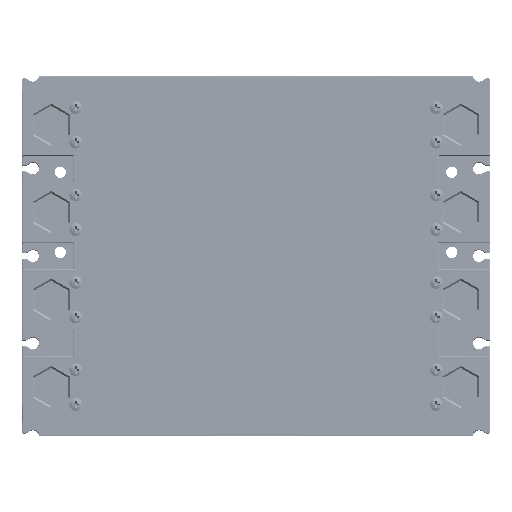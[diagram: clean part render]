
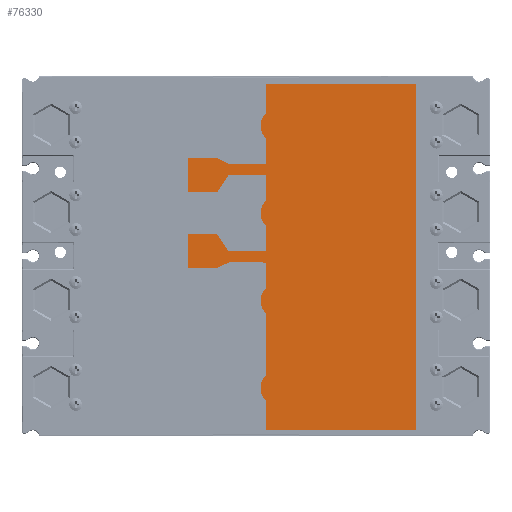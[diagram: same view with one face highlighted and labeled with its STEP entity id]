
A CAD part, front view. The second image highlights one B-rep face of the part: STEP entity #76330.
In plain terms, the highlighted planar face has unit normal (0, -1, 0) as drawn and (0, 0, -1) by its records, which use the part's own axes.
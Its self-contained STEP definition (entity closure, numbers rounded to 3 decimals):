
#75811=DIRECTION('',(0.,1.,0.));
#75812=VECTOR('',#75811,82.5);
#75813=CARTESIAN_POINT('',(119.,0.,0.));
#75814=LINE('',#75813,#75812);
#75815=DIRECTION('',(-1.,0.,0.));
#75816=VECTOR('',#75815,16.072);
#75817=CARTESIAN_POINT('',(119.,82.5,0.));
#75818=LINE('',#75817,#75816);
#75819=CARTESIAN_POINT('',(96.,76.,0.));
#75820=DIRECTION('',(0.,0.,1.));
#75821=DIRECTION('',(0.729,0.684,0.));
#75822=AXIS2_PLACEMENT_3D('',#75819,#75820,#75821);
#75824=DIRECTION('',(-1.,0.,0.));
#75825=VECTOR('',#75824,34.144);
#75826=CARTESIAN_POINT('',(89.072,82.5,0.));
#75827=LINE('',#75826,#75825);
#75828=CARTESIAN_POINT('',(48.,76.,0.));
#75829=DIRECTION('',(0.,0.,1.));
#75830=DIRECTION('',(0.729,0.684,0.));
#75831=AXIS2_PLACEMENT_3D('',#75828,#75829,#75830);
#75833=DIRECTION('',(-1.,0.,0.));
#75834=VECTOR('',#75833,13.972);
#75835=CARTESIAN_POINT('',(41.072,82.5,0.));
#75836=LINE('',#75835,#75834);
#75837=DIRECTION('',(0.,1.,0.));
#75838=VECTOR('',#75837,20.5);
#75839=CARTESIAN_POINT('',(27.1,82.5,0.));
#75840=LINE('',#75839,#75838);
#75841=DIRECTION('',(0.436,0.9,0.));
#75842=VECTOR('',#75841,7.223);
#75843=CARTESIAN_POINT('',(27.1,103.,0.));
#75844=LINE('',#75843,#75842);
#75845=DIRECTION('',(0.,1.,0.));
#75846=VECTOR('',#75845,16.);
#75847=CARTESIAN_POINT('',(30.25,109.5,0.));
#75848=LINE('',#75847,#75846);
#75849=DIRECTION('',(-1.,0.,0.));
#75850=VECTOR('',#75849,19.);
#75851=CARTESIAN_POINT('',(30.25,125.5,0.));
#75852=LINE('',#75851,#75850);
#75853=DIRECTION('',(0.,-1.,0.));
#75854=VECTOR('',#75853,16.);
#75855=CARTESIAN_POINT('',(11.25,125.5,0.));
#75856=LINE('',#75855,#75854);
#75857=DIRECTION('',(0.829,-0.559,0.));
#75858=VECTOR('',#75857,11.635);
#75859=CARTESIAN_POINT('',(11.25,109.5,0.));
#75860=LINE('',#75859,#75858);
#75861=DIRECTION('',(0.,-1.,0.));
#75862=VECTOR('',#75861,20.5);
#75863=CARTESIAN_POINT('',(20.9,103.,0.));
#75864=LINE('',#75863,#75862);
#75865=DIRECTION('',(-1.,0.,0.));
#75866=VECTOR('',#75865,13.972);
#75867=CARTESIAN_POINT('',(20.9,82.5,0.));
#75868=LINE('',#75867,#75866);
#75869=CARTESIAN_POINT('',(0.,76.,0.));
#75870=DIRECTION('',(0.,0.,1.));
#75871=DIRECTION('',(0.729,0.684,0.));
#75872=AXIS2_PLACEMENT_3D('',#75869,#75870,#75871);
#75874=DIRECTION('',(-1.,0.,0.));
#75875=VECTOR('',#75874,13.972);
#75876=CARTESIAN_POINT('',(-6.928,82.5,0.));
#75877=LINE('',#75876,#75875);
#75878=DIRECTION('',(0.,1.,0.));
#75879=VECTOR('',#75878,20.5);
#75880=CARTESIAN_POINT('',(-20.9,82.5,0.));
#75881=LINE('',#75880,#75879);
#75882=DIRECTION('',(0.829,0.559,0.));
#75883=VECTOR('',#75882,11.635);
#75884=CARTESIAN_POINT('',(-20.9,103.,0.));
#75885=LINE('',#75884,#75883);
#75886=DIRECTION('',(0.,1.,0.));
#75887=VECTOR('',#75886,16.);
#75888=CARTESIAN_POINT('',(-11.25,109.5,0.));
#75889=LINE('',#75888,#75887);
#75890=DIRECTION('',(-1.,0.,0.));
#75891=VECTOR('',#75890,19.);
#75892=CARTESIAN_POINT('',(-11.25,125.5,0.));
#75893=LINE('',#75892,#75891);
#75894=DIRECTION('',(0.,-1.,0.));
#75895=VECTOR('',#75894,16.);
#75896=CARTESIAN_POINT('',(-30.25,125.5,0.));
#75897=LINE('',#75896,#75895);
#75898=DIRECTION('',(0.436,-0.9,0.));
#75899=VECTOR('',#75898,7.223);
#75900=CARTESIAN_POINT('',(-30.25,109.5,0.));
#75901=LINE('',#75900,#75899);
#75902=DIRECTION('',(0.,-1.,0.));
#75903=VECTOR('',#75902,20.5);
#75904=CARTESIAN_POINT('',(-27.1,103.,0.));
#75905=LINE('',#75904,#75903);
#75906=DIRECTION('',(-1.,0.,0.));
#75907=VECTOR('',#75906,13.972);
#75908=CARTESIAN_POINT('',(-27.1,82.5,0.));
#75909=LINE('',#75908,#75907);
#75910=CARTESIAN_POINT('',(-48.,76.,0.));
#75911=DIRECTION('',(0.,0.,1.));
#75912=DIRECTION('',(0.729,0.684,0.));
#75913=AXIS2_PLACEMENT_3D('',#75910,#75911,#75912);
#75915=DIRECTION('',(-1.,0.,0.));
#75916=VECTOR('',#75915,16.072);
#75917=CARTESIAN_POINT('',(-54.928,82.5,0.));
#75918=LINE('',#75917,#75916);
#75919=DIRECTION('',(0.,-1.,0.));
#75920=VECTOR('',#75919,82.5);
#75921=CARTESIAN_POINT('',(-71.,82.5,0.));
#75922=LINE('',#75921,#75920);
#75923=DIRECTION('',(-1.,0.,0.));
#75924=VECTOR('',#75923,190.);
#75925=CARTESIAN_POINT('',(119.,0.,0.));
#75926=LINE('',#75925,#75924);
#76155=CARTESIAN_POINT('',(-20.9,103.,0.));
#76156=CARTESIAN_POINT('',(-11.25,109.5,0.));
#76157=VERTEX_POINT('',#76155);
#76158=VERTEX_POINT('',#76156);
#76159=CARTESIAN_POINT('',(-11.25,125.5,0.));
#76160=VERTEX_POINT('',#76159);
#76161=CARTESIAN_POINT('',(-30.25,125.5,0.));
#76162=VERTEX_POINT('',#76161);
#76163=CARTESIAN_POINT('',(-30.25,109.5,0.));
#76164=VERTEX_POINT('',#76163);
#76165=CARTESIAN_POINT('',(-27.1,103.,0.));
#76166=VERTEX_POINT('',#76165);
#76167=CARTESIAN_POINT('',(27.1,103.,0.));
#76168=CARTESIAN_POINT('',(30.25,109.5,0.));
#76169=VERTEX_POINT('',#76167);
#76170=VERTEX_POINT('',#76168);
#76171=CARTESIAN_POINT('',(30.25,125.5,0.));
#76172=VERTEX_POINT('',#76171);
#76173=CARTESIAN_POINT('',(11.25,125.5,0.));
#76174=VERTEX_POINT('',#76173);
#76175=CARTESIAN_POINT('',(11.25,109.5,0.));
#76176=VERTEX_POINT('',#76175);
#76177=CARTESIAN_POINT('',(20.9,103.,0.));
#76178=VERTEX_POINT('',#76177);
#76203=CARTESIAN_POINT('',(119.,0.,0.));
#76204=CARTESIAN_POINT('',(119.,82.5,0.));
#76205=VERTEX_POINT('',#76203);
#76206=VERTEX_POINT('',#76204);
#76207=CARTESIAN_POINT('',(102.928,82.5,0.));
#76208=VERTEX_POINT('',#76207);
#76209=CARTESIAN_POINT('',(54.928,82.5,0.));
#76210=CARTESIAN_POINT('',(41.072,82.5,0.));
#76211=VERTEX_POINT('',#76209);
#76212=VERTEX_POINT('',#76210);
#76213=CARTESIAN_POINT('',(6.928,82.5,0.));
#76214=CARTESIAN_POINT('',(-6.928,82.5,0.));
#76215=VERTEX_POINT('',#76213);
#76216=VERTEX_POINT('',#76214);
#76217=CARTESIAN_POINT('',(-41.072,82.5,0.));
#76218=CARTESIAN_POINT('',(-54.928,82.5,0.));
#76219=VERTEX_POINT('',#76217);
#76220=VERTEX_POINT('',#76218);
#76221=CARTESIAN_POINT('',(-71.,82.5,0.));
#76222=VERTEX_POINT('',#76221);
#76244=CARTESIAN_POINT('',(-20.9,82.5,0.));
#76246=VERTEX_POINT('',#76244);
#76248=CARTESIAN_POINT('',(-27.1,82.5,0.));
#76250=VERTEX_POINT('',#76248);
#76252=CARTESIAN_POINT('',(27.1,82.5,0.));
#76254=VERTEX_POINT('',#76252);
#76256=CARTESIAN_POINT('',(20.9,82.5,0.));
#76258=VERTEX_POINT('',#76256);
#76261=CARTESIAN_POINT('',(-71.,0.,0.));
#76262=VERTEX_POINT('',#76261);
#76263=CARTESIAN_POINT('',(89.072,82.5,0.));
#76264=VERTEX_POINT('',#76263);
#76267=CARTESIAN_POINT('',(0.,0.,0.));
#76268=DIRECTION('',(0.,0.,1.));
#76269=DIRECTION('',(1.,0.,0.));
#76270=AXIS2_PLACEMENT_3D('',#76267,#76268,#76269);
#76271=PLANE('',#76270);
#76273=ORIENTED_EDGE('',*,*,#76272,.F.);
#76275=ORIENTED_EDGE('',*,*,#76274,.T.);
#76277=ORIENTED_EDGE('',*,*,#76276,.T.);
#76279=ORIENTED_EDGE('',*,*,#76278,.T.);
#76281=ORIENTED_EDGE('',*,*,#76280,.T.);
#76283=ORIENTED_EDGE('',*,*,#76282,.T.);
#76285=ORIENTED_EDGE('',*,*,#76284,.T.);
#76287=ORIENTED_EDGE('',*,*,#76286,.T.);
#76289=ORIENTED_EDGE('',*,*,#76288,.T.);
#76291=ORIENTED_EDGE('',*,*,#76290,.T.);
#76293=ORIENTED_EDGE('',*,*,#76292,.T.);
#76295=ORIENTED_EDGE('',*,*,#76294,.T.);
#76297=ORIENTED_EDGE('',*,*,#76296,.T.);
#76299=ORIENTED_EDGE('',*,*,#76298,.T.);
#76301=ORIENTED_EDGE('',*,*,#76300,.T.);
#76303=ORIENTED_EDGE('',*,*,#76302,.T.);
#76305=ORIENTED_EDGE('',*,*,#76304,.T.);
#76307=ORIENTED_EDGE('',*,*,#76306,.T.);
#76309=ORIENTED_EDGE('',*,*,#76308,.T.);
#76311=ORIENTED_EDGE('',*,*,#76310,.T.);
#76313=ORIENTED_EDGE('',*,*,#76312,.T.);
#76315=ORIENTED_EDGE('',*,*,#76314,.T.);
#76317=ORIENTED_EDGE('',*,*,#76316,.T.);
#76319=ORIENTED_EDGE('',*,*,#76318,.T.);
#76321=ORIENTED_EDGE('',*,*,#76320,.T.);
#76323=ORIENTED_EDGE('',*,*,#76322,.T.);
#76325=ORIENTED_EDGE('',*,*,#76324,.T.);
#76327=ORIENTED_EDGE('',*,*,#76326,.T.);
#76328=EDGE_LOOP('',(#76273,#76275,#76277,#76279,#76281,#76283,#76285,#76287,
#76289,#76291,#76293,#76295,#76297,#76299,#76301,#76303,#76305,#76307,#76309,
#76311,#76313,#76315,#76317,#76319,#76321,#76323,#76325,#76327));
#76329=FACE_OUTER_BOUND('',#76328,.F.);
#76330=ADVANCED_FACE('',(#76329),#76271,.F.);
#75823=CIRCLE('',#75822,9.5);
#75832=CIRCLE('',#75831,9.5);
#75873=CIRCLE('',#75872,9.5);
#75914=CIRCLE('',#75913,9.5);
#76272=EDGE_CURVE('',#76205,#76262,#75926,.T.);
#76274=EDGE_CURVE('',#76205,#76206,#75814,.T.);
#76276=EDGE_CURVE('',#76206,#76208,#75818,.T.);
#76278=EDGE_CURVE('',#76208,#76264,#75823,.T.);
#76280=EDGE_CURVE('',#76264,#76211,#75827,.T.);
#76282=EDGE_CURVE('',#76211,#76212,#75832,.T.);
#76284=EDGE_CURVE('',#76212,#76254,#75836,.T.);
#76286=EDGE_CURVE('',#76254,#76169,#75840,.T.);
#76288=EDGE_CURVE('',#76169,#76170,#75844,.T.);
#76290=EDGE_CURVE('',#76170,#76172,#75848,.T.);
#76292=EDGE_CURVE('',#76172,#76174,#75852,.T.);
#76294=EDGE_CURVE('',#76174,#76176,#75856,.T.);
#76296=EDGE_CURVE('',#76176,#76178,#75860,.T.);
#76298=EDGE_CURVE('',#76178,#76258,#75864,.T.);
#76300=EDGE_CURVE('',#76258,#76215,#75868,.T.);
#76302=EDGE_CURVE('',#76215,#76216,#75873,.T.);
#76304=EDGE_CURVE('',#76216,#76246,#75877,.T.);
#76306=EDGE_CURVE('',#76246,#76157,#75881,.T.);
#76308=EDGE_CURVE('',#76157,#76158,#75885,.T.);
#76310=EDGE_CURVE('',#76158,#76160,#75889,.T.);
#76312=EDGE_CURVE('',#76160,#76162,#75893,.T.);
#76314=EDGE_CURVE('',#76162,#76164,#75897,.T.);
#76316=EDGE_CURVE('',#76164,#76166,#75901,.T.);
#76318=EDGE_CURVE('',#76166,#76250,#75905,.T.);
#76320=EDGE_CURVE('',#76250,#76219,#75909,.T.);
#76322=EDGE_CURVE('',#76219,#76220,#75914,.T.);
#76324=EDGE_CURVE('',#76220,#76222,#75918,.T.);
#76326=EDGE_CURVE('',#76222,#76262,#75922,.T.);
